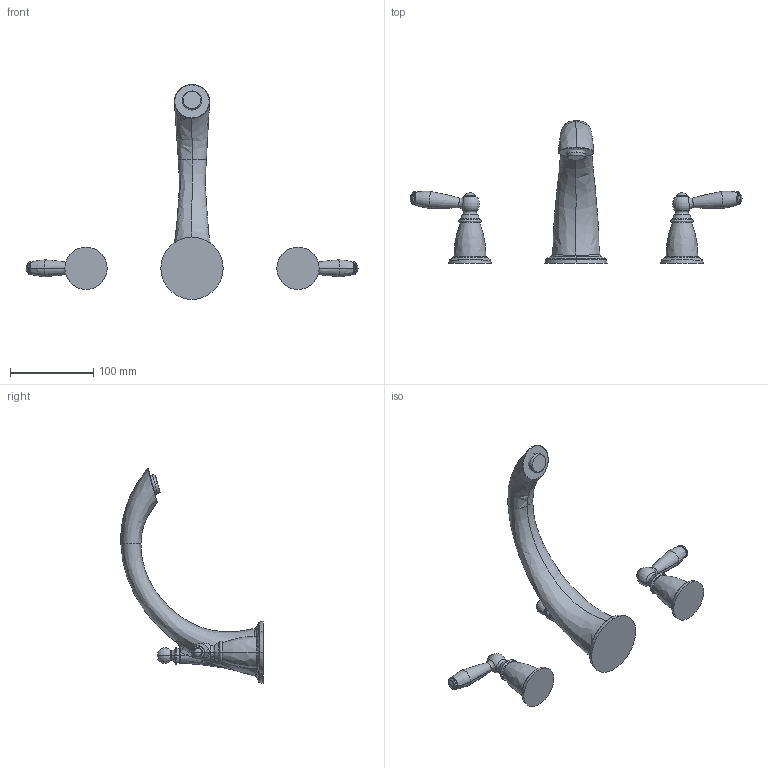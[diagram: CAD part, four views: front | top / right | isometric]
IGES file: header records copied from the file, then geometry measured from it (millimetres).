
Start section:  PTC IGES file: sku_t933.igs
Global section: file name: sku_t933.igs; native system: Pro/ENGINEER by Parametric Technology Corporation; preprocessor: 2006460; author: 9dutterb; organization: Unknown; date: 20071207.071745; units: inch
Bounding box: 397.96 x 170.69 x 257.51 mm (x, y, z)
Surface area: 74012.5 mm2 (no closed solid volume)
Topology: 0 solids, 0 shells, 149 faces, 603 edges, 593 vertices
Faces by surface type: revolution 116, bspline 33
